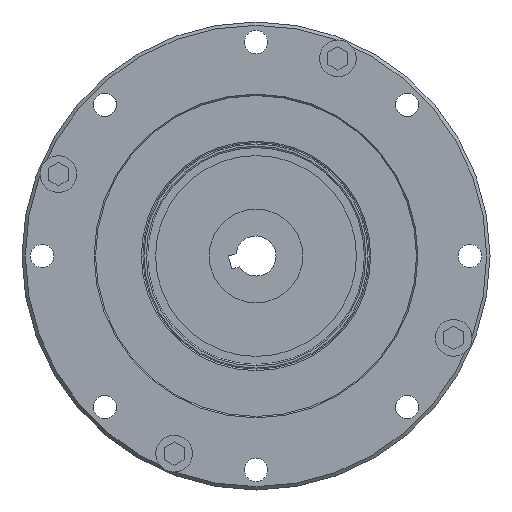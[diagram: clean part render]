
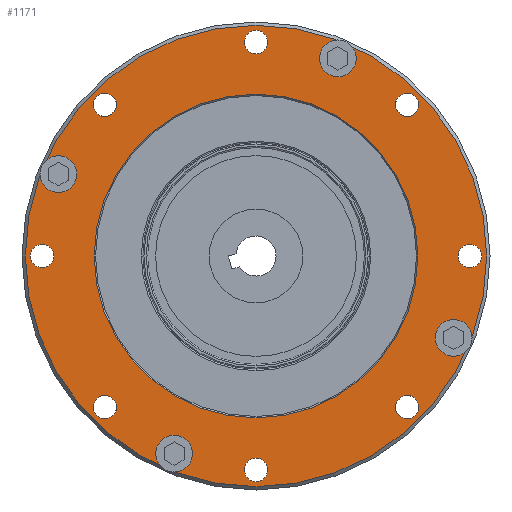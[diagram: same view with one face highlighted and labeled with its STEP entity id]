
A CAD part, left-side view. The second image highlights one B-rep face of the part: STEP entity #1171.
In plain terms, the highlighted planar face has unit normal (-1, 0, 0).
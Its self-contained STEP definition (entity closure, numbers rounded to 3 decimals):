
#631=PLANE('',#3764);
#865=FACE_BOUND('',#1582,.T.);
#866=FACE_BOUND('',#1583,.T.);
#867=FACE_BOUND('',#1584,.T.);
#868=FACE_BOUND('',#1585,.T.);
#869=FACE_BOUND('',#1586,.T.);
#870=FACE_BOUND('',#1587,.T.);
#871=FACE_BOUND('',#1588,.T.);
#872=FACE_BOUND('',#1589,.T.);
#873=FACE_BOUND('',#1590,.T.);
#874=FACE_BOUND('',#1591,.T.);
#875=FACE_BOUND('',#1592,.T.);
#876=FACE_BOUND('',#1593,.T.);
#877=FACE_BOUND('',#1594,.T.);
#878=FACE_BOUND('',#1595,.T.);
#1171=ADVANCED_FACE('',(#865,#866,#867,#868,#869,#870,#871,#872,#873,#874,
#875,#876,#877,#878),#631,.T.);
#1582=EDGE_LOOP('',(#2033));
#1583=EDGE_LOOP('',(#2034));
#1584=EDGE_LOOP('',(#2035));
#1585=EDGE_LOOP('',(#2036));
#1586=EDGE_LOOP('',(#2037));
#1587=EDGE_LOOP('',(#2038));
#1588=EDGE_LOOP('',(#2039));
#1589=EDGE_LOOP('',(#2040));
#1590=EDGE_LOOP('',(#2041));
#1591=EDGE_LOOP('',(#2042));
#1592=EDGE_LOOP('',(#2043));
#1593=EDGE_LOOP('',(#2044));
#1594=EDGE_LOOP('',(#2045));
#1595=EDGE_LOOP('',(#2046));
#2033=ORIENTED_EDGE('',*,*,#3169,.T.);
#2034=ORIENTED_EDGE('',*,*,#3170,.T.);
#2035=ORIENTED_EDGE('',*,*,#3171,.T.);
#2036=ORIENTED_EDGE('',*,*,#3172,.T.);
#2037=ORIENTED_EDGE('',*,*,#3173,.T.);
#2038=ORIENTED_EDGE('',*,*,#3174,.T.);
#2039=ORIENTED_EDGE('',*,*,#3175,.T.);
#2040=ORIENTED_EDGE('',*,*,#3176,.T.);
#2041=ORIENTED_EDGE('',*,*,#3177,.T.);
#2042=ORIENTED_EDGE('',*,*,#3178,.T.);
#2043=ORIENTED_EDGE('',*,*,#3179,.T.);
#2044=ORIENTED_EDGE('',*,*,#3180,.T.);
#2045=ORIENTED_EDGE('',*,*,#3181,.T.);
#2046=ORIENTED_EDGE('',*,*,#3182,.T.);
#2827=VERTEX_POINT('',#5346);
#2828=VERTEX_POINT('',#5348);
#2829=VERTEX_POINT('',#5350);
#2830=VERTEX_POINT('',#5352);
#2831=VERTEX_POINT('',#5354);
#2832=VERTEX_POINT('',#5356);
#2833=VERTEX_POINT('',#5358);
#2834=VERTEX_POINT('',#5360);
#2835=VERTEX_POINT('',#5362);
#2836=VERTEX_POINT('',#5364);
#2837=VERTEX_POINT('',#5366);
#2838=VERTEX_POINT('',#5368);
#2839=VERTEX_POINT('',#5370);
#2840=VERTEX_POINT('',#5372);
#3169=EDGE_CURVE('',#2827,#2827,#3557,.T.);
#3170=EDGE_CURVE('',#2828,#2828,#3558,.T.);
#3171=EDGE_CURVE('',#2829,#2829,#3559,.T.);
#3172=EDGE_CURVE('',#2830,#2830,#3560,.T.);
#3173=EDGE_CURVE('',#2831,#2831,#3561,.T.);
#3174=EDGE_CURVE('',#2832,#2832,#3562,.T.);
#3175=EDGE_CURVE('',#2833,#2833,#3563,.T.);
#3176=EDGE_CURVE('',#2834,#2834,#3564,.T.);
#3177=EDGE_CURVE('',#2835,#2835,#3565,.T.);
#3178=EDGE_CURVE('',#2836,#2836,#3566,.T.);
#3179=EDGE_CURVE('',#2837,#2837,#3567,.T.);
#3180=EDGE_CURVE('',#2838,#2838,#3568,.T.);
#3181=EDGE_CURVE('',#2839,#2839,#3569,.T.);
#3182=EDGE_CURVE('',#2840,#2840,#3570,.T.);
#3557=CIRCLE('',#3750,1.75);
#3558=CIRCLE('',#3751,1.75);
#3559=CIRCLE('',#3752,1.75);
#3560=CIRCLE('',#3753,1.75);
#3561=CIRCLE('',#3754,1.75);
#3562=CIRCLE('',#3755,1.75);
#3563=CIRCLE('',#3756,1.75);
#3564=CIRCLE('',#3757,1.5);
#3565=CIRCLE('',#3758,1.5);
#3566=CIRCLE('',#3759,1.5);
#3567=CIRCLE('',#3760,1.5);
#3568=CIRCLE('',#3761,1.75);
#3569=CIRCLE('',#3762,24.2);
#3570=CIRCLE('',#3763,34.5);
#3750=AXIS2_PLACEMENT_3D('',#5345,#4258,#4259);
#3751=AXIS2_PLACEMENT_3D('',#5347,#4260,#4261);
#3752=AXIS2_PLACEMENT_3D('',#5349,#4262,#4263);
#3753=AXIS2_PLACEMENT_3D('',#5351,#4264,#4265);
#3754=AXIS2_PLACEMENT_3D('',#5353,#4266,#4267);
#3755=AXIS2_PLACEMENT_3D('',#5355,#4268,#4269);
#3756=AXIS2_PLACEMENT_3D('',#5357,#4270,#4271);
#3757=AXIS2_PLACEMENT_3D('',#5359,#4272,#4273);
#3758=AXIS2_PLACEMENT_3D('',#5361,#4274,#4275);
#3759=AXIS2_PLACEMENT_3D('',#5363,#4276,#4277);
#3760=AXIS2_PLACEMENT_3D('',#5365,#4278,#4279);
#3761=AXIS2_PLACEMENT_3D('',#5367,#4280,#4281);
#3762=AXIS2_PLACEMENT_3D('',#5369,#4282,#4283);
#3763=AXIS2_PLACEMENT_3D('',#5371,#4284,#4285);
#3764=AXIS2_PLACEMENT_3D('',#5373,#4286,#4287);
#4258=DIRECTION('',(1.,0.,0.));
#4259=DIRECTION('',(0.,-0.707,-0.707));
#4260=DIRECTION('',(1.,0.,0.));
#4261=DIRECTION('',(0.,-1.,0.));
#4262=DIRECTION('',(1.,0.,0.));
#4263=DIRECTION('',(0.,-0.707,0.707));
#4264=DIRECTION('',(1.,0.,0.));
#4265=DIRECTION('',(0.,0.,1.));
#4266=DIRECTION('',(1.,0.,0.));
#4267=DIRECTION('',(0.,0.707,0.707));
#4268=DIRECTION('',(1.,0.,0.));
#4269=DIRECTION('',(0.,1.,0.));
#4270=DIRECTION('',(1.,0.,0.));
#4271=DIRECTION('',(0.,0.707,-0.707));
#4272=DIRECTION('',(1.,0.,0.));
#4273=DIRECTION('',(0.,-1.,0.));
#4274=DIRECTION('',(1.,0.,0.));
#4275=DIRECTION('',(0.,0.,1.));
#4276=DIRECTION('',(1.,0.,0.));
#4277=DIRECTION('',(0.,1.,0.));
#4278=DIRECTION('',(1.,0.,0.));
#4279=DIRECTION('',(0.,0.,-1.));
#4280=DIRECTION('',(1.,0.,0.));
#4281=DIRECTION('',(0.,0.,-1.));
#4282=DIRECTION('',(1.,0.,0.));
#4283=DIRECTION('',(0.,0.,1.));
#4284=DIRECTION('',(-1.,0.,0.));
#4285=DIRECTION('',(0.,0.,1.));
#4286=DIRECTION('',(-1.,0.,0.));
#4287=DIRECTION('',(0.,0.,-1.));
#5345=CARTESIAN_POINT('',(0.,22.627,-22.627));
#5346=CARTESIAN_POINT('',(0.,21.39,-23.865));
#5347=CARTESIAN_POINT('',(0.,0.,-32.));
#5348=CARTESIAN_POINT('',(0.,-1.75,-32.));
#5349=CARTESIAN_POINT('',(0.,-22.627,-22.627));
#5350=CARTESIAN_POINT('',(0.,-23.865,-21.39));
#5351=CARTESIAN_POINT('',(0.,-32.,0.));
#5352=CARTESIAN_POINT('',(0.,-32.,1.75));
#5353=CARTESIAN_POINT('',(0.,-22.627,22.627));
#5354=CARTESIAN_POINT('',(0.,-21.39,23.865));
#5355=CARTESIAN_POINT('',(0.,0.,32.));
#5356=CARTESIAN_POINT('',(0.,1.75,32.));
#5357=CARTESIAN_POINT('',(0.,22.627,22.627));
#5358=CARTESIAN_POINT('',(0.,23.865,21.39));
#5359=CARTESIAN_POINT('',(0.,12.246,-29.564));
#5360=CARTESIAN_POINT('',(0.,10.746,-29.564));
#5361=CARTESIAN_POINT('',(0.,-29.564,-12.246));
#5362=CARTESIAN_POINT('',(0.,-29.564,-10.746));
#5363=CARTESIAN_POINT('',(0.,-12.246,29.564));
#5364=CARTESIAN_POINT('',(0.,-10.746,29.564));
#5365=CARTESIAN_POINT('',(0.,29.564,12.246));
#5366=CARTESIAN_POINT('',(0.,29.564,10.746));
#5367=CARTESIAN_POINT('',(0.,32.,0.));
#5368=CARTESIAN_POINT('',(0.,32.,-1.75));
#5369=CARTESIAN_POINT('',(0.,0.,0.));
#5370=CARTESIAN_POINT('',(0.,0.,24.2));
#5371=CARTESIAN_POINT('',(0.,0.,0.));
#5372=CARTESIAN_POINT('',(0.,0.,34.5));
#5373=CARTESIAN_POINT('',(0.,24.,0.));
